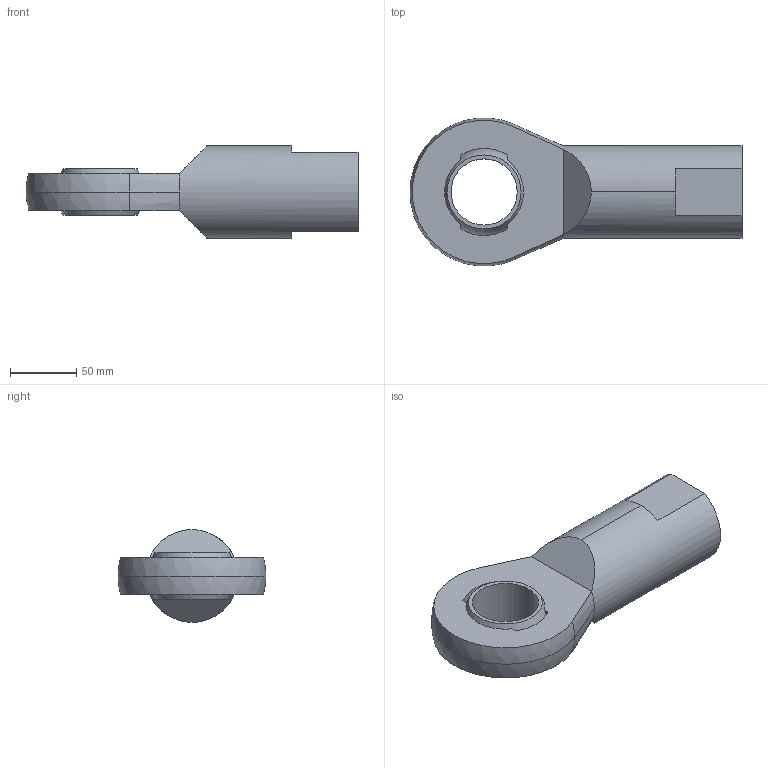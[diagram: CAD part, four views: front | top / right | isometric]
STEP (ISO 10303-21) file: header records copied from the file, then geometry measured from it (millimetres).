
FILE_DESCRIPTION (( 'STEP AP203' ), '1' );
FILE_NAME ('65880.W0250.step', '2014-02-06T18:33:40', ( 'User' ), ( '' ), 'SwSTEP 2.0', 'SolidWorks 2009', '' );
FILE_SCHEMA (( 'CONFIG_CONTROL_DESIGN' ));
Length unit declared in the file: millimetre
Products named in the file (3): 65880.W0250; Part1_65880.W0250; Part2_65880.W0250
Assembly tree (2 placements, depth 2):
  65880.W0250
    Part1_65880.W0250
    Part2_65880.W0250
Bounding box: 251 x 111.65 x 70 mm (x, y, z)
Volume: 540154.9 mm3; surface area: 90285.7 mm2
Topology: 2 solids, 2 shells, 45 faces, 108 edges, 67 vertices
Faces by surface type: plane 20, cylinder 10, sphere 8, cone 7
Entity records: 1624 total; most frequent: DIRECTION 253, CARTESIAN_POINT 253, ORIENTED_EDGE 208, AXIS2_PLACEMENT_3D 107, EDGE_CURVE 104, VERTEX_POINT 67, CIRCLE 57, EDGE_LOOP 53
